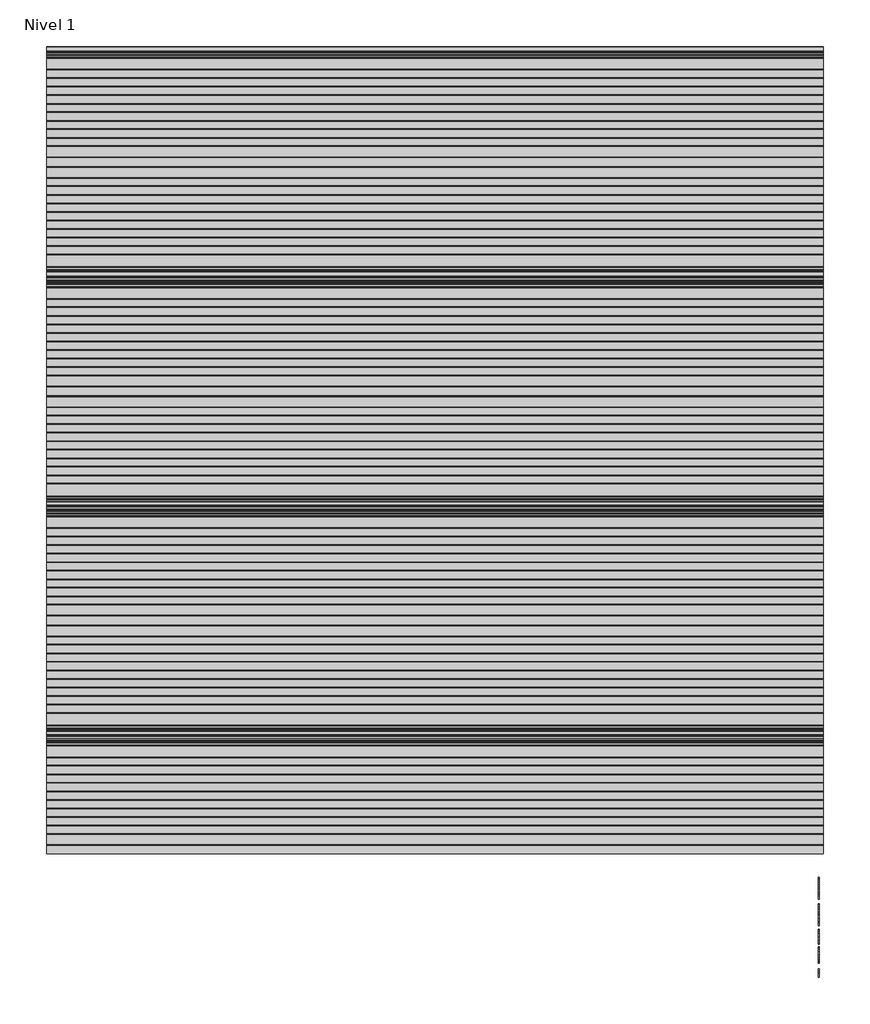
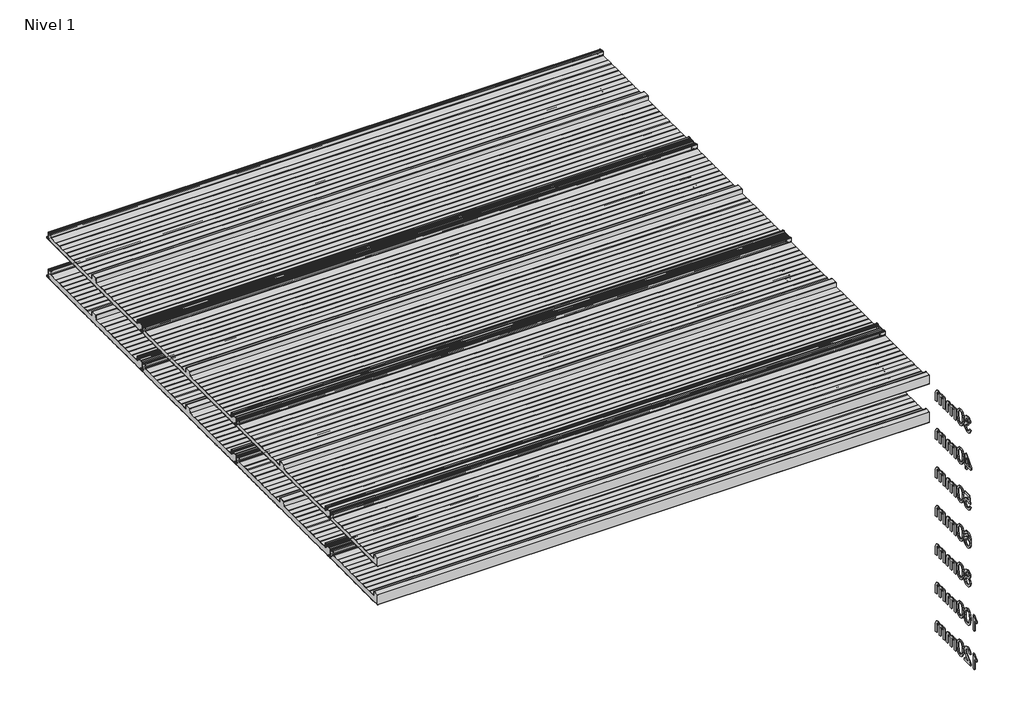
# One storey, incomplete: 8 plates, 7 proxies.
"""IFC4 building model written with IfcOpenShell, lengths in millimetres."""

from ifc_helpers import new_model, si_unit, frame, origin, place, context, project, spatial, polyline, outline, extrude, transform, mapped, element, save
from components import plate_30_mm_228ccd44, plate_30_mm_d53318d0, plate_40_mm_992aaad9, plate_40_mm_c3d7c6c0

model = new_model("IFC4")

# Units and contexts
model_context = context("Model", 3, world=origin())
ifc_project = project(units=[si_unit("LENGTHUNIT", "METRE", prefix="MILLI")], contexts=[model_context])

# Site, building, storey
site = spatial("IfcSite", under=ifc_project)
building = spatial("IfcBuilding", under=site)
storey = spatial("IfcBuildingStorey", under=building, Name="Nivel 1", Elevation=0.0)

# Proxies
placement = place(None, origin())
element("IfcBuildingElementProxy", 1, Name="100mm Arial", ObjectType="100mm Arial", at=placement, inside=storey, context=model_context, shape_type="SweptSolid", body=[
    extrude(outline(polyline([(14811.6332666, -40.4578656), (14824.1903054, -38.8882358), (14831.1187496, -52.1074622), (14844.0804586, -56.1541641), (14852.6888973, -54.7623439), (14859.3352987, -50.5868832), (14865.0006814, -36.8035712), (14859.3843496, -23.8173367), (14845.1105282, -18.6792515), (14836.3058858, -20.0526776), (14837.7038373, -7.4956389), (14839.7149256, -7.6427917), (14853.9642215, -4.0375481), (14858.7098993, 0.5364513), (14860.2917918, 7.0479627), (14855.7055296, 16.8704119), (14843.8842549, 20.7576984), (14831.9158273, 16.8336237), (14825.7599352, 5.0613999), (14813.2028965, 6.6310297), (14816.9001105, 17.9066129), (14823.4790669, 26.3249792), (14832.479913, 31.5672976), (14843.4427965, 33.3147371), (14858.5872719, 29.8689091), (14869.1822734, 20.45113), (14872.8488306, 7.7837267), (14869.3662144, -3.7922935), (14859.0655185, -12.1064266), (14872.7507287, -20.6903398), (14877.5577201, -37.0243004), (14875.1542244, -49.2625081), (14867.9437373, -59.4896275), (14857.0605616, -66.405809), (14843.6390002, -68.7112029), (14831.4988943, -66.7430342), (14821.6151314, -60.8385282), (14814.7418695, -51.8070252), (14811.6332666, -40.4578656)])), frame((9557.0230098, 0.0, 0.0), z_axis=(1.0, 0.0, 0.0), x_axis=(0.0, 1.0, 0.0)), (0.0, 0.0, 1.0), 5.0),
    extrude(outline(polyline([(14888.5451291, -17.7227583), (14892.2362118, 11.1805037), (14903.1990952, 27.8455581), (14921.5073558, 33.3147371), (14936.1735847, 30.0773756), (14946.3026023, 20.7454356), (14952.1887142, 5.883003), (14954.4695826, -17.7227583), (14950.8152881, -46.5033931), (14939.8891929, -63.2052357), (14931.6578332, -67.3347111), (14921.5073558, -68.7112029), (14908.4598077, -66.3199699), (14898.5515193, -59.146271), (14891.0467266, -42.1562542), (14888.5451291, -17.7227583)]), holes=[polyline([(14901.1021678, -17.6982329), (14902.5736958, -37.4504303), (14906.9882798, -48.8823633), (14913.5611047, -54.3362139), (14921.5073558, -56.1541641), (14929.4536069, -54.3300825), (14936.0264319, -48.8578379), (14940.4410159, -37.4197735), (14941.9125438, -17.6982329), (14940.4900668, 1.6094405), (14936.2226356, 13.1302783), (14929.6620734, 18.8508433), (14921.360203, 20.7576984), (14913.4997911, 19.0777039), (14907.1844835, 14.0377206), (14902.6227467, 1.7995129), (14901.1021678, -17.6982329)])]), frame((9557.0230098, 0.0, 0.0), z_axis=(1.0, 0.0, 0.0), x_axis=(0.0, 1.0, 0.0)), (0.0, 0.0, 1.0), 5.0),
    extrude(outline(polyline([(14968.5962512, -67.141573), (14968.5962512, 6.6310297), (14981.15329, 6.6310297), (14981.15329, -5.5090761), (14989.7862541, 4.4360005), (15002.0735128, 8.2006596), (15014.655077, 4.3624241), (15021.5712585, -6.3919929), (15031.3691823, 4.5524965), (15043.7422801, 8.2006596), (15053.181519, 6.6831464), (15060.1620798, 2.1306067), (15064.4754962, -5.5795868), (15065.9133017, -16.5700614), (15065.9133017, -67.141573), (15053.3562629, -67.141573), (15053.3562629, -21.965664), (15052.1913033, -11.4810272), (15047.972923, -6.3184165), (15040.7992241, -4.3563792), (15028.4506518, -9.3840998), (15024.7626348, -15.9262679), (15023.5332958, -25.4973312), (15023.5332958, -67.141573), (15010.9762571, -67.141573), (15010.9762571, -20.5677124), (15008.0699893, -8.4030811), (14998.5418456, -4.3563792), (14989.2466939, -7.0541805), (14983.0662764, -14.9513806), (14981.15329, -29.9364406), (14981.15329, -67.141573), (14968.5962512, -67.141573)])), frame((9557.0230098, 0.0, 0.0), z_axis=(1.0, 0.0, 0.0), x_axis=(0.0, 1.0, 0.0)), (0.0, 0.0, 1.0), 5.0),
    extrude(outline(polyline([(15084.7488598, -67.141573), (15084.7488598, 6.6310297), (15097.3058986, 6.6310297), (15097.3058986, -5.5090761), (15105.9388628, 4.4360005), (15118.2261214, 8.2006596), (15130.8076856, 4.3624241), (15137.7238671, -6.3919929), (15147.5217909, 4.5524965), (15159.8948887, 8.2006596), (15169.3341276, 6.6831464), (15176.3146884, 2.1306067), (15180.6281048, -5.5795868), (15182.0659103, -16.5700614), (15182.0659103, -67.141573), (15169.5088715, -67.141573), (15169.5088715, -21.965664), (15168.3439119, -11.4810272), (15164.1255317, -6.3184165), (15156.9518327, -4.3563792), (15144.6032604, -9.3840998), (15140.9152434, -15.9262679), (15139.6859044, -25.4973312), (15139.6859044, -67.141573), (15127.1288657, -67.141573), (15127.1288657, -20.5677124), (15124.2225979, -8.4030811), (15114.6944542, -4.3563792), (15105.3993025, -7.0541805), (15099.218885, -14.9513806), (15097.3058986, -29.9364406), (15097.3058986, -67.141573), (15084.7488598, -67.141573)])), frame((9557.0230098, 0.0, 0.0), z_axis=(1.0, 0.0, 0.0), x_axis=(0.0, 1.0, 0.0)), (0.0, 0.0, 1.0), 5.0),
])
element("IfcBuildingElementProxy", 2, Name="100mm Arial", ObjectType="100mm Arial", at=placement, inside=storey, context=model_context, shape_type="SweptSolid", body=[
    extrude(outline(polyline([(14852.4436426, -317.141573), (14852.4436426, -293.5971253), (14806.9243771, -293.5971253), (14806.9243771, -281.0400866), (14855.5829023, -218.2548927), (14865.0006814, -218.2548927), (14865.0006814, -281.0400866), (14877.5577201, -281.0400866), (14877.5577201, -293.5971253), (14865.0006814, -293.5971253), (14865.0006814, -317.141573), (14852.4436426, -317.141573)]), holes=[polyline([(14852.4436426, -281.0400866), (14852.4436426, -242.2407988), (14822.3754209, -281.0400866), (14852.4436426, -281.0400866)])]), frame((9557.0230098, 0.0, 0.0), z_axis=(1.0, 0.0, 0.0), x_axis=(0.0, 1.0, 0.0)), (0.0, 0.0, 1.0), 5.0),
    extrude(outline(polyline([(14888.5451291, -267.7227583), (14892.2362118, -238.8194963), (14903.1990952, -222.1544419), (14921.5073558, -216.6852629), (14936.1735847, -219.9226244), (14946.3026023, -229.2545644), (14952.1887142, -244.116997), (14954.4695826, -267.7227583), (14950.8152881, -296.5033931), (14939.8891929, -313.2052357), (14931.6578332, -317.3347111), (14921.5073558, -318.7112029), (14908.4598077, -316.3199699), (14898.5515193, -309.146271), (14891.0467266, -292.1562542), (14888.5451291, -267.7227583)]), holes=[polyline([(14901.1021678, -267.6982329), (14902.5736958, -287.4504303), (14906.9882798, -298.8823633), (14913.5611047, -304.3362139), (14921.5073558, -306.1541641), (14929.4536069, -304.3300825), (14936.0264319, -298.8578379), (14940.4410159, -287.4197735), (14941.9125438, -267.6982329), (14940.4900668, -248.3905595), (14936.2226356, -236.8697217), (14929.6620734, -231.1491567), (14921.360203, -229.2423016), (14913.4997911, -230.9222961), (14907.1844835, -235.9622794), (14902.6227467, -248.2004871), (14901.1021678, -267.6982329)])]), frame((9557.0230098, 0.0, 0.0), z_axis=(1.0, 0.0, 0.0), x_axis=(0.0, 1.0, 0.0)), (0.0, 0.0, 1.0), 5.0),
    extrude(outline(polyline([(14968.5962512, -317.141573), (14968.5962512, -243.3689703), (14981.15329, -243.3689703), (14981.15329, -255.5090761), (14989.7862541, -245.5639995), (15002.0735128, -241.7993404), (15014.655077, -245.6375759), (15021.5712585, -256.3919929), (15031.3691823, -245.4475035), (15043.7422801, -241.7993404), (15053.181519, -243.3168536), (15060.1620798, -247.8693933), (15064.4754962, -255.5795868), (15065.9133017, -266.5700614), (15065.9133017, -317.141573), (15053.3562629, -317.141573), (15053.3562629, -271.965664), (15052.1913033, -261.4810272), (15047.972923, -256.3184165), (15040.7992241, -254.3563792), (15028.4506518, -259.3840998), (15024.7626348, -265.9262679), (15023.5332958, -275.4973312), (15023.5332958, -317.141573), (15010.9762571, -317.141573), (15010.9762571, -270.5677124), (15008.0699893, -258.4030811), (14998.5418456, -254.3563792), (14989.2466939, -257.0541805), (14983.0662764, -264.9513806), (14981.15329, -279.9364406), (14981.15329, -317.141573), (14968.5962512, -317.141573)])), frame((9557.0230098, 0.0, 0.0), z_axis=(1.0, 0.0, 0.0), x_axis=(0.0, 1.0, 0.0)), (0.0, 0.0, 1.0), 5.0),
    extrude(outline(polyline([(15084.7488598, -317.141573), (15084.7488598, -243.3689703), (15097.3058986, -243.3689703), (15097.3058986, -255.5090761), (15105.9388628, -245.5639995), (15118.2261214, -241.7993404), (15130.8076856, -245.6375759), (15137.7238671, -256.3919929), (15147.5217909, -245.4475035), (15159.8948887, -241.7993404), (15169.3341276, -243.3168536), (15176.3146884, -247.8693933), (15180.6281048, -255.5795868), (15182.0659103, -266.5700614), (15182.0659103, -317.141573), (15169.5088715, -317.141573), (15169.5088715, -271.965664), (15168.3439119, -261.4810272), (15164.1255317, -256.3184165), (15156.9518327, -254.3563792), (15144.6032604, -259.3840998), (15140.9152434, -265.9262679), (15139.6859044, -275.4973312), (15139.6859044, -317.141573), (15127.1288657, -317.141573), (15127.1288657, -270.5677124), (15124.2225979, -258.4030811), (15114.6944542, -254.3563792), (15105.3993025, -257.0541805), (15099.218885, -264.9513806), (15097.3058986, -279.9364406), (15097.3058986, -317.141573), (15084.7488598, -317.141573)])), frame((9557.0230098, 0.0, 0.0), z_axis=(1.0, 0.0, 0.0), x_axis=(0.0, 1.0, 0.0)), (0.0, 0.0, 1.0), 5.0),
])
element("IfcBuildingElementProxy", 3, Name="100mm Arial", ObjectType="100mm Arial", at=placement, inside=storey, context=model_context, shape_type="SweptSolid", body=[
    extrude(outline(polyline([(14811.6332666, -540.4578656), (14824.1903054, -538.8882358), (14830.5178757, -551.8254193), (14843.6390002, -556.1541641), (14852.6398463, -554.6489136), (14859.3843496, -550.1331621), (14863.5965984, -543.1280758), (14865.0006814, -534.1548208), (14859.7399688, -519.2433373), (14853.1334213, -515.141453), (14843.8352039, -513.7741583), (14832.8110068, -515.9569248), (14825.7599352, -521.6223075), (14813.2028965, -520.0526776), (14824.1903054, -468.2548927), (14872.8488306, -468.2548927), (14872.8488306, -480.8119315), (14834.3438484, -480.8119315), (14828.9727713, -508.4766575), (14837.9429606, -503.032004), (14847.3423456, -501.2171195), (14859.0747156, -503.467331), (14868.8143914, -510.2179656), (14875.371888, -520.5063988), (14877.5577201, -533.3700059), (14875.5895515, -545.9270446), (14869.6850454, -556.6691989), (14858.3788055, -565.7007019), (14843.5899493, -568.7112029), (14831.2567054, -566.7767567), (14821.4311904, -560.9734182), (14814.6958842, -551.9756378), (14811.6332666, -540.4578656)])), frame((9557.0230098, 0.0, 0.0), z_axis=(1.0, 0.0, 0.0), x_axis=(0.0, 1.0, 0.0)), (0.0, 0.0, 1.0), 5.0),
    extrude(outline(polyline([(14888.5451291, -517.7227583), (14892.2362118, -488.8194963), (14903.1990952, -472.1544419), (14921.5073558, -466.6852629), (14936.1735847, -469.9226244), (14946.3026023, -479.2545644), (14952.1887142, -494.116997), (14954.4695826, -517.7227583), (14950.8152881, -546.5033931), (14939.8891929, -563.2052357), (14931.6578332, -567.3347111), (14921.5073558, -568.7112029), (14908.4598077, -566.3199699), (14898.5515193, -559.146271), (14891.0467266, -542.1562542), (14888.5451291, -517.7227583)]), holes=[polyline([(14901.1021678, -517.6982329), (14902.5736958, -537.4504303), (14906.9882798, -548.8823633), (14913.5611047, -554.3362139), (14921.5073558, -556.1541641), (14929.4536069, -554.3300825), (14936.0264319, -548.8578379), (14940.4410159, -537.4197735), (14941.9125438, -517.6982329), (14940.4900668, -498.3905595), (14936.2226356, -486.8697217), (14929.6620734, -481.1491567), (14921.360203, -479.2423016), (14913.4997911, -480.9222961), (14907.1844835, -485.9622794), (14902.6227467, -498.2004871), (14901.1021678, -517.6982329)])]), frame((9557.0230098, 0.0, 0.0), z_axis=(1.0, 0.0, 0.0), x_axis=(0.0, 1.0, 0.0)), (0.0, 0.0, 1.0), 5.0),
    extrude(outline(polyline([(14968.5962512, -567.141573), (14968.5962512, -493.3689703), (14981.15329, -493.3689703), (14981.15329, -505.5090761), (14989.7862541, -495.5639995), (15002.0735128, -491.7993404), (15014.655077, -495.6375759), (15021.5712585, -506.3919929), (15031.3691823, -495.4475035), (15043.7422801, -491.7993404), (15053.181519, -493.3168536), (15060.1620798, -497.8693933), (15064.4754962, -505.5795868), (15065.9133017, -516.5700614), (15065.9133017, -567.141573), (15053.3562629, -567.141573), (15053.3562629, -521.965664), (15052.1913033, -511.4810272), (15047.972923, -506.3184165), (15040.7992241, -504.3563792), (15028.4506518, -509.3840998), (15024.7626348, -515.9262679), (15023.5332958, -525.4973312), (15023.5332958, -567.141573), (15010.9762571, -567.141573), (15010.9762571, -520.5677124), (15008.0699893, -508.4030811), (14998.5418456, -504.3563792), (14989.2466939, -507.0541805), (14983.0662764, -514.9513806), (14981.15329, -529.9364406), (14981.15329, -567.141573), (14968.5962512, -567.141573)])), frame((9557.0230098, 0.0, 0.0), z_axis=(1.0, 0.0, 0.0), x_axis=(0.0, 1.0, 0.0)), (0.0, 0.0, 1.0), 5.0),
    extrude(outline(polyline([(15084.7488598, -567.141573), (15084.7488598, -493.3689703), (15097.3058986, -493.3689703), (15097.3058986, -505.5090761), (15105.9388628, -495.5639995), (15118.2261214, -491.7993404), (15130.8076856, -495.6375759), (15137.7238671, -506.3919929), (15147.5217909, -495.4475035), (15159.8948887, -491.7993404), (15169.3341276, -493.3168536), (15176.3146884, -497.8693933), (15180.6281048, -505.5795868), (15182.0659103, -516.5700614), (15182.0659103, -567.141573), (15169.5088715, -567.141573), (15169.5088715, -521.965664), (15168.3439119, -511.4810272), (15164.1255317, -506.3184165), (15156.9518327, -504.3563792), (15144.6032604, -509.3840998), (15140.9152434, -515.9262679), (15139.6859044, -525.4973312), (15139.6859044, -567.141573), (15127.1288657, -567.141573), (15127.1288657, -520.5677124), (15124.2225979, -508.4030811), (15114.6944542, -504.3563792), (15105.3993025, -507.0541805), (15099.218885, -514.9513806), (15097.3058986, -529.9364406), (15097.3058986, -567.141573), (15084.7488598, -567.141573)])), frame((9557.0230098, 0.0, 0.0), z_axis=(1.0, 0.0, 0.0), x_axis=(0.0, 1.0, 0.0)), (0.0, 0.0, 1.0), 5.0),
])
element("IfcBuildingElementProxy", 4, Name="100mm Arial", ObjectType="100mm Arial", at=placement, inside=storey, context=model_context, shape_type="SweptSolid", body=[
    extrude(outline(polyline([(14875.9880903, -743.3689703), (14863.4310515, -744.9386001), (14858.6731111, -734.466226), (14846.0915468, -729.2423016), (14834.7607814, -732.2834595), (14826.1891309, -743.7000641), (14822.6206755, -766.0795521), (14833.6939236, -756.0608991), (14847.415922, -752.7867493), (14859.0164676, -755.0246981), (14868.7530777, -761.7385446), (14875.3565595, -771.9963209), (14877.5577201, -784.8660593), (14873.4129163, -802.1933013), (14862.0085745, -814.4560345), (14845.5519866, -818.7112029), (14831.3057563, -815.8907742), (14819.9596624, -807.4294884), (14812.5376432, -792.4934794), (14810.0636368, -770.2488814), (14812.810489, -745.2390371), (14821.0510457, -728.1386557), (14832.3021034, -719.5486111), (14846.8763617, -716.6852629), (14857.8944275, -718.4572278), (14866.717464, -723.7731227), (14872.8978815, -732.2160144), (14875.9880903, -743.3689703)]), holes=[polyline([(14822.6206755, -784.6698556), (14825.5269433, -795.5468999), (14833.2524652, -803.4441001), (14844.5709679, -806.1541641), (14852.8575099, -804.7500812), (14859.3720868, -800.5378323), (14863.5935327, -793.9159564), (14865.0006814, -785.2829922), (14863.6119268, -776.9964503), (14859.4456632, -770.678077), (14852.8207217, -766.6773603), (14844.0559331, -765.3437881), (14828.8624067, -770.678077), (14824.1811083, -776.8431661), (14822.6206755, -784.6698556)])]), frame((9557.0230098, 0.0, 0.0), z_axis=(1.0, 0.0, 0.0), x_axis=(0.0, 1.0, 0.0)), (0.0, 0.0, 1.0), 5.0),
    extrude(outline(polyline([(14888.5451291, -767.7227583), (14892.2362118, -738.8194963), (14903.1990952, -722.1544419), (14921.5073558, -716.6852629), (14936.1735847, -719.9226244), (14946.3026023, -729.2545644), (14952.1887142, -744.116997), (14954.4695826, -767.7227583), (14950.8152881, -796.5033931), (14939.8891929, -813.2052357), (14931.6578332, -817.3347111), (14921.5073558, -818.7112029), (14908.4598077, -816.3199699), (14898.5515193, -809.146271), (14891.0467266, -792.1562542), (14888.5451291, -767.7227583)]), holes=[polyline([(14901.1021678, -767.6982329), (14902.5736958, -787.4504303), (14906.9882798, -798.8823633), (14913.5611047, -804.3362139), (14921.5073558, -806.1541641), (14929.4536069, -804.3300825), (14936.0264319, -798.8578379), (14940.4410159, -787.4197735), (14941.9125438, -767.6982329), (14940.4900668, -748.3905595), (14936.2226356, -736.8697217), (14929.6620734, -731.1491567), (14921.360203, -729.2423016), (14913.4997911, -730.9222961), (14907.1844835, -735.9622794), (14902.6227467, -748.2004871), (14901.1021678, -767.6982329)])]), frame((9557.0230098, 0.0, 0.0), z_axis=(1.0, 0.0, 0.0), x_axis=(0.0, 1.0, 0.0)), (0.0, 0.0, 1.0), 5.0),
    extrude(outline(polyline([(14968.5962512, -817.141573), (14968.5962512, -743.3689703), (14981.15329, -743.3689703), (14981.15329, -755.5090761), (14989.7862541, -745.5639995), (15002.0735128, -741.7993404), (15014.655077, -745.6375759), (15021.5712585, -756.3919929), (15031.3691823, -745.4475035), (15043.7422801, -741.7993404), (15053.181519, -743.3168536), (15060.1620798, -747.8693933), (15064.4754962, -755.5795868), (15065.9133017, -766.5700614), (15065.9133017, -817.141573), (15053.3562629, -817.141573), (15053.3562629, -771.965664), (15052.1913033, -761.4810272), (15047.972923, -756.3184165), (15040.7992241, -754.3563792), (15028.4506518, -759.3840998), (15024.7626348, -765.9262679), (15023.5332958, -775.4973312), (15023.5332958, -817.141573), (15010.9762571, -817.141573), (15010.9762571, -770.5677124), (15008.0699893, -758.4030811), (14998.5418456, -754.3563792), (14989.2466939, -757.0541805), (14983.0662764, -764.9513806), (14981.15329, -779.9364406), (14981.15329, -817.141573), (14968.5962512, -817.141573)])), frame((9557.0230098, 0.0, 0.0), z_axis=(1.0, 0.0, 0.0), x_axis=(0.0, 1.0, 0.0)), (0.0, 0.0, 1.0), 5.0),
    extrude(outline(polyline([(15084.7488598, -817.141573), (15084.7488598, -743.3689703), (15097.3058986, -743.3689703), (15097.3058986, -755.5090761), (15105.9388628, -745.5639995), (15118.2261214, -741.7993404), (15130.8076856, -745.6375759), (15137.7238671, -756.3919929), (15147.5217909, -745.4475035), (15159.8948887, -741.7993404), (15169.3341276, -743.3168536), (15176.3146884, -747.8693933), (15180.6281048, -755.5795868), (15182.0659103, -766.5700614), (15182.0659103, -817.141573), (15169.5088715, -817.141573), (15169.5088715, -771.965664), (15168.3439119, -761.4810272), (15164.1255317, -756.3184165), (15156.9518327, -754.3563792), (15144.6032604, -759.3840998), (15140.9152434, -765.9262679), (15139.6859044, -775.4973312), (15139.6859044, -817.141573), (15127.1288657, -817.141573), (15127.1288657, -770.5677124), (15124.2225979, -758.4030811), (15114.6944542, -754.3563792), (15105.3993025, -757.0541805), (15099.218885, -764.9513806), (15097.3058986, -779.9364406), (15097.3058986, -817.141573), (15084.7488598, -817.141573)])), frame((9557.0230098, 0.0, 0.0), z_axis=(1.0, 0.0, 0.0), x_axis=(0.0, 1.0, 0.0)), (0.0, 0.0, 1.0), 5.0),
])
element("IfcBuildingElementProxy", 5, Name="100mm Arial", ObjectType="100mm Arial", at=placement, inside=storey, context=model_context, shape_type="SweptSolid", body=[
    extrude(outline(polyline([(14829.9292645, -1011.812121), (14818.4881345, -1004.0130227), (14814.7725263, -991.8729168), (14816.7958773, -982.0565989), (14822.8659302, -973.9448009), (14832.3021034, -968.5001474), (14844.4238151, -966.6852629), (14856.6191033, -968.543067), (14866.1779038, -974.1164792), (14872.3583213, -982.3570359), (14874.4184605, -992.2162733), (14870.7519032, -1004.0498109), (14859.6296042, -1011.812121), (14872.9837207, -1021.6590957), (14877.5577201, -1037.9072171), (14875.2891145, -1049.9124329), (14868.4832976, -1059.8329841), (14857.9741353, -1066.4916482), (14844.5954934, -1068.7112029), (14831.2168515, -1066.4824511), (14820.7076892, -1059.7961959), (14813.9018722, -1049.7806085), (14811.6332666, -1037.5638606), (14816.3912071, -1020.9355944), (14829.9292645, -1011.812121)]), holes=[polyline([(14824.1903054, -1037.1224022), (14826.2872328, -1046.5769695), (14833.7061863, -1053.6525665), (14844.6935952, -1056.1541641), (14853.2407203, -1054.838986), (14859.6541297, -1050.8934516), (14865.0006814, -1037.5148097), (14859.4824514, -1023.8786504), (14852.9218892, -1019.8319485), (14844.2766623, -1018.4830478), (14835.8490989, -1019.8135544), (14829.5000688, -1023.805074), (14824.1903054, -1037.1224022)]), polyline([(14827.3295651, -992.2407988), (14831.7809372, -1002.1000363), (14844.7426462, -1005.926009), (14857.4468377, -1002.1245617), (14861.8614217, -992.8048845), (14857.2996849, -983.1541135), (14844.5954934, -979.2423016), (14831.8545136, -983.0682744), (14827.3295651, -992.2407988)])]), frame((9557.0230098, 0.0, 0.0), z_axis=(1.0, 0.0, 0.0), x_axis=(0.0, 1.0, 0.0)), (0.0, 0.0, 1.0), 5.0),
    extrude(outline(polyline([(14888.5451291, -1017.7227583), (14892.2362118, -988.8194963), (14903.1990952, -972.1544419), (14921.5073558, -966.6852629), (14936.1735847, -969.9226244), (14946.3026023, -979.2545644), (14952.1887142, -994.116997), (14954.4695826, -1017.7227583), (14950.8152881, -1046.5033931), (14939.8891929, -1063.2052357), (14931.6578332, -1067.3347111), (14921.5073558, -1068.7112029), (14908.4598077, -1066.3199699), (14898.5515193, -1059.146271), (14891.0467266, -1042.1562542), (14888.5451291, -1017.7227583)]), holes=[polyline([(14901.1021678, -1017.6982329), (14902.5736958, -1037.4504303), (14906.9882798, -1048.8823633), (14913.5611047, -1054.3362139), (14921.5073558, -1056.1541641), (14929.4536069, -1054.3300825), (14936.0264319, -1048.8578379), (14940.4410159, -1037.4197735), (14941.9125438, -1017.6982329), (14940.4900668, -998.3905595), (14936.2226356, -986.8697217), (14929.6620734, -981.1491567), (14921.360203, -979.2423016), (14913.4997911, -980.9222961), (14907.1844835, -985.9622794), (14902.6227467, -998.2004871), (14901.1021678, -1017.6982329)])]), frame((9557.0230098, 0.0, 0.0), z_axis=(1.0, 0.0, 0.0), x_axis=(0.0, 1.0, 0.0)), (0.0, 0.0, 1.0), 5.0),
    extrude(outline(polyline([(14968.5962512, -1067.141573), (14968.5962512, -993.3689703), (14981.15329, -993.3689703), (14981.15329, -1005.5090761), (14989.7862541, -995.5639995), (15002.0735128, -991.7993404), (15014.655077, -995.6375759), (15021.5712585, -1006.3919929), (15031.3691823, -995.4475035), (15043.7422801, -991.7993404), (15053.181519, -993.3168536), (15060.1620798, -997.8693933), (15064.4754962, -1005.5795868), (15065.9133017, -1016.5700614), (15065.9133017, -1067.141573), (15053.3562629, -1067.141573), (15053.3562629, -1021.965664), (15052.1913033, -1011.4810272), (15047.972923, -1006.3184165), (15040.7992241, -1004.3563792), (15028.4506518, -1009.3840998), (15024.7626348, -1015.9262679), (15023.5332958, -1025.4973312), (15023.5332958, -1067.141573), (15010.9762571, -1067.141573), (15010.9762571, -1020.5677124), (15008.0699893, -1008.4030811), (14998.5418456, -1004.3563792), (14989.2466939, -1007.0541805), (14983.0662764, -1014.9513806), (14981.15329, -1029.9364406), (14981.15329, -1067.141573), (14968.5962512, -1067.141573)])), frame((9557.0230098, 0.0, 0.0), z_axis=(1.0, 0.0, 0.0), x_axis=(0.0, 1.0, 0.0)), (0.0, 0.0, 1.0), 5.0),
    extrude(outline(polyline([(15084.7488598, -1067.141573), (15084.7488598, -993.3689703), (15097.3058986, -993.3689703), (15097.3058986, -1005.5090761), (15105.9388628, -995.5639995), (15118.2261214, -991.7993404), (15130.8076856, -995.6375759), (15137.7238671, -1006.3919929), (15147.5217909, -995.4475035), (15159.8948887, -991.7993404), (15169.3341276, -993.3168536), (15176.3146884, -997.8693933), (15180.6281048, -1005.5795868), (15182.0659103, -1016.5700614), (15182.0659103, -1067.141573), (15169.5088715, -1067.141573), (15169.5088715, -1021.965664), (15168.3439119, -1011.4810272), (15164.1255317, -1006.3184165), (15156.9518327, -1004.3563792), (15144.6032604, -1009.3840998), (15140.9152434, -1015.9262679), (15139.6859044, -1025.4973312), (15139.6859044, -1067.141573), (15127.1288657, -1067.141573), (15127.1288657, -1020.5677124), (15124.2225979, -1008.4030811), (15114.6944542, -1004.3563792), (15105.3993025, -1007.0541805), (15099.218885, -1014.9513806), (15097.3058986, -1029.9364406), (15097.3058986, -1067.141573), (15084.7488598, -1067.141573)])), frame((9557.0230098, 0.0, 0.0), z_axis=(1.0, 0.0, 0.0), x_axis=(0.0, 1.0, 0.0)), (0.0, 0.0, 1.0), 5.0),
])
element("IfcBuildingElementProxy", 6, Name="100mm Arial", ObjectType="100mm Arial", at=placement, inside=storey, context=model_context, shape_type="SweptSolid", body=[
    extrude(outline(polyline([(14781.8102995, -1317.141573), (14769.2532608, -1317.141573), (14769.2532608, -1238.8562845), (14757.3584096, -1247.3298331), (14744.1391832, -1253.6696661), (14744.1391832, -1241.7993404), (14762.5455457, -1230.051642), (14773.7168956, -1216.6852629), (14781.8102995, -1216.6852629), (14781.8102995, -1317.141573)])), frame((9557.0230098, 0.0, 0.0), z_axis=(1.0, 0.0, 0.0), x_axis=(0.0, 1.0, 0.0)), (0.0, 0.0, 1.0), 5.0),
    extrude(outline(polyline([(14811.6332666, -1267.7227583), (14815.3243493, -1238.8194963), (14826.2872328, -1222.1544419), (14844.5954934, -1216.6852629), (14859.2617223, -1219.9226244), (14869.3907399, -1229.2545644), (14875.2768518, -1244.116997), (14877.5577201, -1267.7227583), (14873.9034257, -1296.5033931), (14862.9773304, -1313.2052357), (14854.7459708, -1317.3347111), (14844.5954934, -1318.7112029), (14831.5479453, -1316.3199699), (14821.6396569, -1309.146271), (14814.1348642, -1292.1562542), (14811.6332666, -1267.7227583)]), holes=[polyline([(14824.1903054, -1267.6982329), (14825.6618334, -1287.4504303), (14830.0764173, -1298.8823633), (14836.6492423, -1304.3362139), (14844.5954934, -1306.1541641), (14852.5417445, -1304.3300825), (14859.1145695, -1298.8578379), (14863.5291534, -1287.4197735), (14865.0006814, -1267.6982329), (14863.5782043, -1248.3905595), (14859.3107732, -1236.8697217), (14852.7502109, -1231.1491567), (14844.4483406, -1229.2423016), (14836.5879286, -1230.9222961), (14830.272621, -1235.9622794), (14825.7108843, -1248.2004871), (14824.1903054, -1267.6982329)])]), frame((9557.0230098, 0.0, 0.0), z_axis=(1.0, 0.0, 0.0), x_axis=(0.0, 1.0, 0.0)), (0.0, 0.0, 1.0), 5.0),
    extrude(outline(polyline([(14888.5451291, -1267.7227583), (14892.2362118, -1238.8194963), (14903.1990952, -1222.1544419), (14921.5073558, -1216.6852629), (14936.1735847, -1219.9226244), (14946.3026023, -1229.2545644), (14952.1887142, -1244.116997), (14954.4695826, -1267.7227583), (14950.8152881, -1296.5033931), (14939.8891929, -1313.2052357), (14931.6578332, -1317.3347111), (14921.5073558, -1318.7112029), (14908.4598077, -1316.3199699), (14898.5515193, -1309.146271), (14891.0467266, -1292.1562542), (14888.5451291, -1267.7227583)]), holes=[polyline([(14901.1021678, -1267.6982329), (14902.5736958, -1287.4504303), (14906.9882798, -1298.8823633), (14913.5611047, -1304.3362139), (14921.5073558, -1306.1541641), (14929.4536069, -1304.3300825), (14936.0264319, -1298.8578379), (14940.4410159, -1287.4197735), (14941.9125438, -1267.6982329), (14940.4900668, -1248.3905595), (14936.2226356, -1236.8697217), (14929.6620734, -1231.1491567), (14921.360203, -1229.2423016), (14913.4997911, -1230.9222961), (14907.1844835, -1235.9622794), (14902.6227467, -1248.2004871), (14901.1021678, -1267.6982329)])]), frame((9557.0230098, 0.0, 0.0), z_axis=(1.0, 0.0, 0.0), x_axis=(0.0, 1.0, 0.0)), (0.0, 0.0, 1.0), 5.0),
    extrude(outline(polyline([(14968.5962512, -1317.141573), (14968.5962512, -1243.3689703), (14981.15329, -1243.3689703), (14981.15329, -1255.5090761), (14989.7862541, -1245.5639995), (15002.0735128, -1241.7993404), (15014.655077, -1245.6375759), (15021.5712585, -1256.3919929), (15031.3691823, -1245.4475035), (15043.7422801, -1241.7993404), (15053.181519, -1243.3168536), (15060.1620798, -1247.8693933), (15064.4754962, -1255.5795868), (15065.9133017, -1266.5700614), (15065.9133017, -1317.141573), (15053.3562629, -1317.141573), (15053.3562629, -1271.965664), (15052.1913033, -1261.4810272), (15047.972923, -1256.3184165), (15040.7992241, -1254.3563792), (15028.4506518, -1259.3840998), (15024.7626348, -1265.9262679), (15023.5332958, -1275.4973312), (15023.5332958, -1317.141573), (15010.9762571, -1317.141573), (15010.9762571, -1270.5677124), (15008.0699893, -1258.4030811), (14998.5418456, -1254.3563792), (14989.2466939, -1257.0541805), (14983.0662764, -1264.9513806), (14981.15329, -1279.9364406), (14981.15329, -1317.141573), (14968.5962512, -1317.141573)])), frame((9557.0230098, 0.0, 0.0), z_axis=(1.0, 0.0, 0.0), x_axis=(0.0, 1.0, 0.0)), (0.0, 0.0, 1.0), 5.0),
    extrude(outline(polyline([(15084.7488598, -1317.141573), (15084.7488598, -1243.3689703), (15097.3058986, -1243.3689703), (15097.3058986, -1255.5090761), (15105.9388628, -1245.5639995), (15118.2261214, -1241.7993404), (15130.8076856, -1245.6375759), (15137.7238671, -1256.3919929), (15147.5217909, -1245.4475035), (15159.8948887, -1241.7993404), (15169.3341276, -1243.3168536), (15176.3146884, -1247.8693933), (15180.6281048, -1255.5795868), (15182.0659103, -1266.5700614), (15182.0659103, -1317.141573), (15169.5088715, -1317.141573), (15169.5088715, -1271.965664), (15168.3439119, -1261.4810272), (15164.1255317, -1256.3184165), (15156.9518327, -1254.3563792), (15144.6032604, -1259.3840998), (15140.9152434, -1265.9262679), (15139.6859044, -1275.4973312), (15139.6859044, -1317.141573), (15127.1288657, -1317.141573), (15127.1288657, -1270.5677124), (15124.2225979, -1258.4030811), (15114.6944542, -1254.3563792), (15105.3993025, -1257.0541805), (15099.218885, -1264.9513806), (15097.3058986, -1279.9364406), (15097.3058986, -1317.141573), (15084.7488598, -1317.141573)])), frame((9557.0230098, 0.0, 0.0), z_axis=(1.0, 0.0, 0.0), x_axis=(0.0, 1.0, 0.0)), (0.0, 0.0, 1.0), 5.0),
])
element("IfcBuildingElementProxy", 7, Name="100mm Arial", ObjectType="100mm Arial", at=placement, inside=storey, context=model_context, shape_type="SweptSolid", body=[
    extrude(outline(polyline([(14781.8102995, -1567.141573), (14769.2532608, -1567.141573), (14769.2532608, -1488.8562845), (14757.3584096, -1497.3298331), (14744.1391832, -1503.6696661), (14744.1391832, -1491.7993404), (14762.5455457, -1480.051642), (14773.7168956, -1466.6852629), (14781.8102995, -1466.6852629), (14781.8102995, -1567.141573)])), frame((9557.0230098, 0.0, 0.0), z_axis=(1.0, 0.0, 0.0), x_axis=(0.0, 1.0, 0.0)), (0.0, 0.0, 1.0), 5.0),
    extrude(outline(polyline([(14875.9880903, -1554.5845343), (14875.9880903, -1567.141573), (14810.0636368, -1567.141573), (14811.4125374, -1558.4840834), (14819.0399574, -1545.1544925), (14834.7607814, -1530.5986282), (14856.4412936, -1509.6784054), (14861.8614217, -1495.4536349), (14856.747862, -1483.9389285), (14843.3937455, -1479.2423016), (14829.4755434, -1483.8285639), (14824.1903054, -1496.50823), (14811.6332666, -1494.9386001), (14814.6774901, -1482.7923629), (14821.2595121, -1473.9202755), (14831.0359762, -1468.494016), (14843.6635257, -1466.6852629), (14856.3830456, -1468.6963511), (14866.1411156, -1474.7296158), (14872.3491242, -1483.7427247), (14874.4184605, -1494.6933454), (14872.186643, -1506.6004594), (14864.7676894, -1518.9122435), (14846.7782599, -1536.1168581), (14832.3327602, -1548.1956503), (14826.6673775, -1554.5845343), (14875.9880903, -1554.5845343)])), frame((9557.0230098, 0.0, 0.0), z_axis=(1.0, 0.0, 0.0), x_axis=(0.0, 1.0, 0.0)), (0.0, 0.0, 1.0), 5.0),
    extrude(outline(polyline([(14888.5451291, -1517.7227583), (14892.2362118, -1488.8194963), (14903.1990952, -1472.1544419), (14921.5073558, -1466.6852629), (14936.1735847, -1469.9226244), (14946.3026023, -1479.2545644), (14952.1887142, -1494.116997), (14954.4695826, -1517.7227583), (14950.8152881, -1546.5033931), (14939.8891929, -1563.2052357), (14931.6578332, -1567.3347111), (14921.5073558, -1568.7112029), (14908.4598077, -1566.3199699), (14898.5515193, -1559.146271), (14891.0467266, -1542.1562542), (14888.5451291, -1517.7227583)]), holes=[polyline([(14901.1021678, -1517.6982329), (14902.5736958, -1537.4504303), (14906.9882798, -1548.8823633), (14913.5611047, -1554.3362139), (14921.5073558, -1556.1541641), (14929.4536069, -1554.3300825), (14936.0264319, -1548.8578379), (14940.4410159, -1537.4197735), (14941.9125438, -1517.6982329), (14940.4900668, -1498.3905595), (14936.2226356, -1486.8697217), (14929.6620734, -1481.1491567), (14921.360203, -1479.2423016), (14913.4997911, -1480.9222961), (14907.1844835, -1485.9622794), (14902.6227467, -1498.2004871), (14901.1021678, -1517.6982329)])]), frame((9557.0230098, 0.0, 0.0), z_axis=(1.0, 0.0, 0.0), x_axis=(0.0, 1.0, 0.0)), (0.0, 0.0, 1.0), 5.0),
    extrude(outline(polyline([(14968.5962512, -1567.141573), (14968.5962512, -1493.3689703), (14981.15329, -1493.3689703), (14981.15329, -1505.5090761), (14989.7862541, -1495.5639995), (15002.0735128, -1491.7993404), (15014.655077, -1495.6375759), (15021.5712585, -1506.3919929), (15031.3691823, -1495.4475035), (15043.7422801, -1491.7993404), (15053.181519, -1493.3168536), (15060.1620798, -1497.8693933), (15064.4754962, -1505.5795868), (15065.9133017, -1516.5700614), (15065.9133017, -1567.141573), (15053.3562629, -1567.141573), (15053.3562629, -1521.965664), (15052.1913033, -1511.4810272), (15047.972923, -1506.3184165), (15040.7992241, -1504.3563792), (15028.4506518, -1509.3840998), (15024.7626348, -1515.9262679), (15023.5332958, -1525.4973312), (15023.5332958, -1567.141573), (15010.9762571, -1567.141573), (15010.9762571, -1520.5677124), (15008.0699893, -1508.4030811), (14998.5418456, -1504.3563792), (14989.2466939, -1507.0541805), (14983.0662764, -1514.9513806), (14981.15329, -1529.9364406), (14981.15329, -1567.141573), (14968.5962512, -1567.141573)])), frame((9557.0230098, 0.0, 0.0), z_axis=(1.0, 0.0, 0.0), x_axis=(0.0, 1.0, 0.0)), (0.0, 0.0, 1.0), 5.0),
    extrude(outline(polyline([(15084.7488598, -1567.141573), (15084.7488598, -1493.3689703), (15097.3058986, -1493.3689703), (15097.3058986, -1505.5090761), (15105.9388628, -1495.5639995), (15118.2261214, -1491.7993404), (15130.8076856, -1495.6375759), (15137.7238671, -1506.3919929), (15147.5217909, -1495.4475035), (15159.8948887, -1491.7993404), (15169.3341276, -1493.3168536), (15176.3146884, -1497.8693933), (15180.6281048, -1505.5795868), (15182.0659103, -1516.5700614), (15182.0659103, -1567.141573), (15169.5088715, -1567.141573), (15169.5088715, -1521.965664), (15168.3439119, -1511.4810272), (15164.1255317, -1506.3184165), (15156.9518327, -1504.3563792), (15144.6032604, -1509.3840998), (15140.9152434, -1515.9262679), (15139.6859044, -1525.4973312), (15139.6859044, -1567.141573), (15127.1288657, -1567.141573), (15127.1288657, -1520.5677124), (15124.2225979, -1508.4030811), (15114.6944542, -1504.3563792), (15105.3993025, -1507.0541805), (15099.218885, -1514.9513806), (15097.3058986, -1529.9364406), (15097.3058986, -1567.141573), (15084.7488598, -1567.141573)])), frame((9557.0230098, 0.0, 0.0), z_axis=(1.0, 0.0, 0.0), x_axis=(0.0, 1.0, 0.0)), (0.0, 0.0, 1.0), 5.0),
])

# Plates
plate_30_mm_shape = plate_30_mm_228ccd44(model_context)
element("IfcPlate", 8, ObjectType="HIANSA PANEL - H20.F01.002-PANELES DE CUBIERTA CON TAPAJUNTA - CUB 3GR - Panel de Muro Cortina : 30 mm", at=placement, inside=storey, context=model_context, shape_type="MappedRepresentation", body=[
    mapped(plate_30_mm_shape, transform((9579.0356399, 18298.3330794, -29.5962409), x_axis=(0.0, -1.0, 0.0), y_axis=(0.0, 0.0, 1.0), z_axis=(-1.0, 0.0, 0.0))),
])
element("IfcPlate", 9, ObjectType="HIANSA PANEL - H20.F01.002-PANELES DE CUBIERTA CON TAPAJUNTA - CUB 3GR - Panel de Muro Cortina : 30 mm", at=placement, inside=storey, context=model_context, shape_type="MappedRepresentation", body=[
    mapped(plate_30_mm_shape, transform((9579.0356399, 17298.3330793, -29.5962409), x_axis=(0.0, -1.0, 0.0), y_axis=(0.0, 0.0, 1.0), z_axis=(-1.0, 0.0, 0.0))),
])
element("IfcPlate", 10, ObjectType="HIANSA PANEL - H20.F01.002-PANELES DE CUBIERTA CON TAPAJUNTA - CUB 3GR - Panel de Muro Cortina : 30 mm", at=placement, inside=storey, context=model_context, shape_type="MappedRepresentation", body=[
    mapped(plate_30_mm_shape, transform((9579.0356399, 16298.3330793, -29.5962409), x_axis=(0.0, -1.0, 0.0), y_axis=(0.0, 0.0, 1.0), z_axis=(-1.0, 0.0, 0.0))),
])
plate_30_mm_2_shape = plate_30_mm_d53318d0(model_context)
element("IfcPlate", 11, ObjectType="HIANSA PANEL - H20.F01.002-PANELES DE CUBIERTA CON TAPAJUNTA - CUB 3GR - Panel de Muro Cortina : 30 mm", at=placement, inside=storey, context=model_context, shape_type="MappedRepresentation", body=[
    mapped(plate_30_mm_2_shape, transform((9579.0356399, 15548.3330794, -29.5962409), x_axis=(0.0, -1.0, 0.0), y_axis=(0.0, 0.0, 1.0), z_axis=(-1.0, 0.0, 0.0))),
])
plate_40_mm_shape = plate_40_mm_992aaad9(model_context)
element("IfcPlate", 12, ObjectType="HIANSA PANEL - H20.F01.002-PANELES DE CUBIERTA CON TAPAJUNTA - CUB 3GR - Panel de Muro Cortina : 40 mm", at=placement, inside=storey, context=model_context, shape_type="MappedRepresentation", body=[
    mapped(plate_40_mm_shape, transform((9579.0356399, 18298.3330794, -279.5962409), x_axis=(0.0, -1.0, 0.0), y_axis=(0.0, 0.0, 1.0), z_axis=(-1.0, 0.0, 0.0))),
])
element("IfcPlate", 13, ObjectType="HIANSA PANEL - H20.F01.002-PANELES DE CUBIERTA CON TAPAJUNTA - CUB 3GR - Panel de Muro Cortina : 40 mm", at=placement, inside=storey, context=model_context, shape_type="MappedRepresentation", body=[
    mapped(plate_40_mm_shape, transform((9579.0356399, 17298.3330793, -279.5962409), x_axis=(0.0, -1.0, 0.0), y_axis=(0.0, 0.0, 1.0), z_axis=(-1.0, 0.0, 0.0))),
])
element("IfcPlate", 14, ObjectType="HIANSA PANEL - H20.F01.002-PANELES DE CUBIERTA CON TAPAJUNTA - CUB 3GR - Panel de Muro Cortina : 40 mm", at=placement, inside=storey, context=model_context, shape_type="MappedRepresentation", body=[
    mapped(plate_40_mm_shape, transform((9579.0356399, 16298.3330793, -279.5962409), x_axis=(0.0, -1.0, 0.0), y_axis=(0.0, 0.0, 1.0), z_axis=(-1.0, 0.0, 0.0))),
])
plate_40_mm_2_shape = plate_40_mm_c3d7c6c0(model_context)
element("IfcPlate", 15, ObjectType="HIANSA PANEL - H20.F01.002-PANELES DE CUBIERTA CON TAPAJUNTA - CUB 3GR - Panel de Muro Cortina : 40 mm", at=placement, inside=storey, context=model_context, shape_type="MappedRepresentation", body=[
    mapped(plate_40_mm_2_shape, transform((9579.0356399, 15548.3330794, -279.5962409), x_axis=(0.0, -1.0, 0.0), y_axis=(0.0, 0.0, 1.0), z_axis=(-1.0, 0.0, 0.0))),
])

save(model, "model.ifc")
